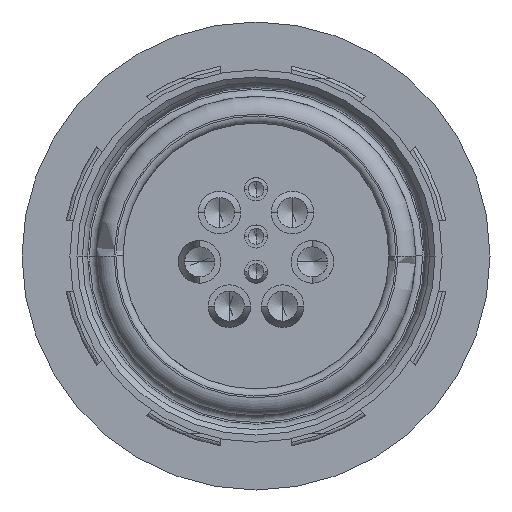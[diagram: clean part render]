
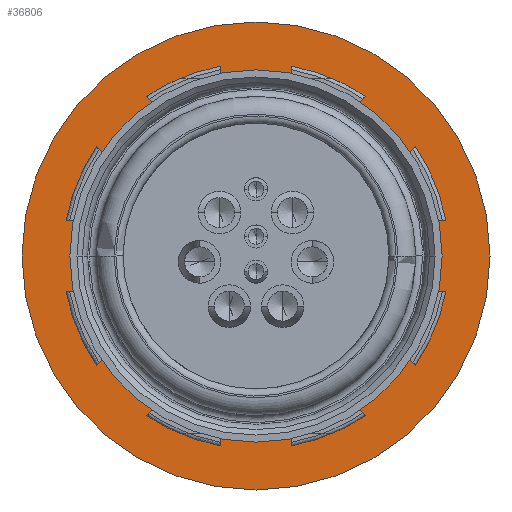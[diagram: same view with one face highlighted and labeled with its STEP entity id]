
A CAD part, left-side view. The second image highlights one B-rep face of the part: STEP entity #36806.
In plain terms, the highlighted planar face has unit normal (-1, 0, 0).
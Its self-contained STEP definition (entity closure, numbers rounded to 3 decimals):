
#4645=CARTESIAN_POINT('',(-10.7,0.,0.));
#4646=DIRECTION('',(1.,0.,0.));
#4647=DIRECTION('',(0.,-1.,0.));
#4648=AXIS2_PLACEMENT_3D('',#4645,#4646,#4647);
#4650=CARTESIAN_POINT('',(-10.7,0.,0.));
#4651=DIRECTION('',(1.,0.,0.));
#4652=DIRECTION('',(0.,1.,0.));
#4653=AXIS2_PLACEMENT_3D('',#4650,#4651,#4652);
#4655=CARTESIAN_POINT('',(-10.7,0.,0.));
#4656=DIRECTION('',(-1.,0.,0.));
#4657=DIRECTION('',(0.,0.707,0.707));
#4658=AXIS2_PLACEMENT_3D('',#4655,#4656,#4657);
#4660=CARTESIAN_POINT('',(-10.7,0.,0.));
#4661=DIRECTION('',(-1.,0.,0.));
#4662=DIRECTION('',(0.,1.,0.));
#4663=AXIS2_PLACEMENT_3D('',#4660,#4661,#4662);
#4665=CARTESIAN_POINT('',(-10.7,0.,0.));
#4666=DIRECTION('',(-1.,0.,0.));
#4667=DIRECTION('',(0.,0.707,-0.707));
#4668=AXIS2_PLACEMENT_3D('',#4665,#4666,#4667);
#4670=CARTESIAN_POINT('',(-10.7,0.,0.));
#4671=DIRECTION('',(-1.,0.,0.));
#4672=DIRECTION('',(0.,0.,-1.));
#4673=AXIS2_PLACEMENT_3D('',#4670,#4671,#4672);
#4675=CARTESIAN_POINT('',(-10.7,0.,0.));
#4676=DIRECTION('',(-1.,0.,0.));
#4677=DIRECTION('',(0.,-0.707,-0.707));
#4678=AXIS2_PLACEMENT_3D('',#4675,#4676,#4677);
#4680=CARTESIAN_POINT('',(-10.7,0.,0.));
#4681=DIRECTION('',(-1.,0.,0.));
#4682=DIRECTION('',(0.,-1.,0.));
#4683=AXIS2_PLACEMENT_3D('',#4680,#4681,#4682);
#4685=CARTESIAN_POINT('',(-10.7,0.,0.));
#4686=DIRECTION('',(-1.,0.,0.));
#4687=DIRECTION('',(0.,-0.707,0.707));
#4688=AXIS2_PLACEMENT_3D('',#4685,#4686,#4687);
#4690=CARTESIAN_POINT('',(-10.7,0.,0.));
#4691=DIRECTION('',(-1.,0.,0.));
#4692=DIRECTION('',(0.,0.,1.));
#4693=AXIS2_PLACEMENT_3D('',#4690,#4691,#4692);
#14786=CARTESIAN_POINT('',(-10.7,6.6,0.));
#14787=VERTEX_POINT('',#14786);
#14788=CARTESIAN_POINT('',(-10.7,-6.6,0.));
#14789=VERTEX_POINT('',#14788);
#14790=CARTESIAN_POINT('',(-10.7,3.571,3.571));
#14791=CARTESIAN_POINT('',(-10.7,5.05,0.));
#14792=VERTEX_POINT('',#14790);
#14793=VERTEX_POINT('',#14791);
#14794=CARTESIAN_POINT('',(-10.7,3.571,-3.571));
#14795=VERTEX_POINT('',#14794);
#14796=CARTESIAN_POINT('',(-10.7,0.,-5.05));
#14797=VERTEX_POINT('',#14796);
#14798=CARTESIAN_POINT('',(-10.7,-3.571,-3.571));
#14799=VERTEX_POINT('',#14798);
#14800=CARTESIAN_POINT('',(-10.7,-5.05,0.));
#14801=VERTEX_POINT('',#14800);
#14802=CARTESIAN_POINT('',(-10.7,-3.571,3.571));
#14803=VERTEX_POINT('',#14802);
#14804=CARTESIAN_POINT('',(-10.7,0.,5.05));
#14805=VERTEX_POINT('',#14804);
#36779=CARTESIAN_POINT('',(-10.7,0.,0.));
#36780=DIRECTION('',(1.,0.,0.));
#36781=DIRECTION('',(0.,-1.,0.));
#36782=AXIS2_PLACEMENT_3D('',#36779,#36780,#36781);
#36783=PLANE('',#36782);
#36784=ORIENTED_EDGE('',*,*,#36765,.T.);
#36785=ORIENTED_EDGE('',*,*,#36747,.T.);
#36786=EDGE_LOOP('',(#36784,#36785));
#36787=FACE_OUTER_BOUND('',#36786,.F.);
#36789=ORIENTED_EDGE('',*,*,#36788,.T.);
#36791=ORIENTED_EDGE('',*,*,#36790,.T.);
#36793=ORIENTED_EDGE('',*,*,#36792,.T.);
#36795=ORIENTED_EDGE('',*,*,#36794,.T.);
#36797=ORIENTED_EDGE('',*,*,#36796,.T.);
#36799=ORIENTED_EDGE('',*,*,#36798,.T.);
#36801=ORIENTED_EDGE('',*,*,#36800,.T.);
#36803=ORIENTED_EDGE('',*,*,#36802,.T.);
#36804=EDGE_LOOP('',(#36789,#36791,#36793,#36795,#36797,#36799,#36801,#36803));
#36805=FACE_BOUND('',#36804,.F.);
#4649=CIRCLE('',#4648,6.6);
#4654=CIRCLE('',#4653,6.6);
#4659=CIRCLE('',#4658,5.05);
#4664=CIRCLE('',#4663,5.05);
#4669=CIRCLE('',#4668,5.05);
#4674=CIRCLE('',#4673,5.05);
#4679=CIRCLE('',#4678,5.05);
#4684=CIRCLE('',#4683,5.05);
#4689=CIRCLE('',#4688,5.05);
#4694=CIRCLE('',#4693,5.05);
#36747=EDGE_CURVE('',#14787,#14789,#4654,.T.);
#36765=EDGE_CURVE('',#14789,#14787,#4649,.T.);
#36788=EDGE_CURVE('',#14792,#14793,#4659,.T.);
#36790=EDGE_CURVE('',#14793,#14795,#4664,.T.);
#36792=EDGE_CURVE('',#14795,#14797,#4669,.T.);
#36794=EDGE_CURVE('',#14797,#14799,#4674,.T.);
#36796=EDGE_CURVE('',#14799,#14801,#4679,.T.);
#36798=EDGE_CURVE('',#14801,#14803,#4684,.T.);
#36800=EDGE_CURVE('',#14803,#14805,#4689,.T.);
#36802=EDGE_CURVE('',#14805,#14792,#4694,.T.);
#36806=ADVANCED_FACE('',(#36787,#36805),#36783,.F.);
